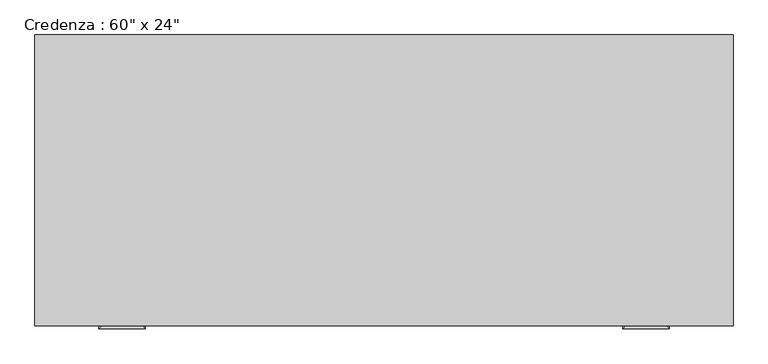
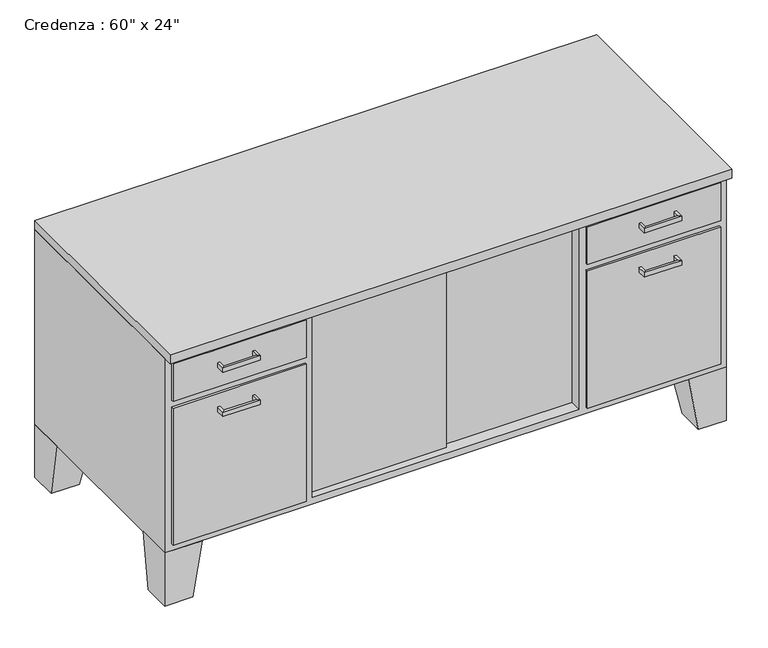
"""IFC4 building model written with IfcOpenShell, lengths in millimetres: furniture geometry."""

from ifc_helpers import new_model, si_unit, frame, origin, place, context, project, spatial, polyline, outline, extrude, faceted_brep, source, transform, mapped, element, save


def furniture_0f0bb7e9(model_context):
    return source(origin(), model_context, "Body", "SolidModel", [
        extrude(outline(polyline([(455.5023176, -267.2714583), (46.8442623, -267.2714583), (46.8442623, -254.5714583), (455.5023176, -254.5714583), (455.5023176, -267.2714583)])), frame((0.0, 0.0, 171.45), z_axis=(0.0, 0.0, 1.0), x_axis=(1.0, 0.0, 0.0)), (0.0, 0.0, 1.0), 520.7),
        extrude(outline(polyline([(73.6254475, -279.9714583), (-302.4057377, -279.9714583), (-302.4057377, -267.2714583), (73.6254475, -267.2714583), (73.6254475, -279.9714583)])), frame((0.0, 0.0, 171.45), z_axis=(0.0, 0.0, 1.0), x_axis=(1.0, 0.0, 0.0)), (0.0, 0.0, 1.0), 520.7),
        faceted_brep([(719.9442623, 309.3803279, 152.4), (719.9442623, 207.7803279, 152.4), (821.5442623, 207.7803279, 152.4), (821.5442623, 309.3803279, 152.4), (745.3442623, 309.3803279, 0.0), (821.5442623, 309.3803279, 0.0), (821.5442623, 233.1803279, 0.0), (745.3442623, 233.1803279, 0.0)], [[[0, 1, 2, 3]], [[4, 5, 6, 7]], [[4, 7, 1, 0]], [[7, 6, 2, 1]], [[6, 5, 3, 2]], [[5, 4, 0, 3]]]),
        extrude(outline(polyline([(802.4942623, -306.5696721), (440.5442623, -306.5696721), (440.5442623, -300.2196721), (802.4942623, -300.2196721), (802.4942623, -306.5696721)])), frame((0.0, 0.0, 584.2), z_axis=(0.0, 0.0, 1.0), x_axis=(1.0, 0.0, 0.0)), (0.0, 0.0, 1.0), 107.95),
        extrude(outline(polyline([(802.4942623, -306.5696721), (440.5442623, -306.5696721), (440.5442623, -300.2196721), (802.4942623, -300.2196721), (802.4942623, -306.5696721)])), frame((0.0, 0.0, 171.45), z_axis=(0.0, 0.0, 1.0), x_axis=(1.0, 0.0, 0.0)), (0.0, 0.0, 1.0), 393.7),
        extrude(outline(polyline([(-321.4557377, -306.5696721), (-683.4057377, -306.5696721), (-683.4057377, -300.2196721), (-321.4557377, -300.2196721), (-321.4557377, -306.5696721)])), frame((0.0, 0.0, 584.2), z_axis=(0.0, 0.0, 1.0), x_axis=(1.0, 0.0, 0.0)), (0.0, 0.0, 1.0), 107.95),
        extrude(outline(polyline([(-321.4557377, -306.5696721), (-683.4057377, -306.5696721), (-683.4057377, -300.2196721), (-321.4557377, -300.2196721), (-321.4557377, -306.5696721)])), frame((0.0, 0.0, 171.45), z_axis=(0.0, 0.0, 1.0), x_axis=(1.0, 0.0, 0.0)), (0.0, 0.0, 1.0), 393.7),
        faceted_brep([(-600.8557377, -300.2196721, 152.4), (-600.8557377, -198.6196721, 152.4), (-702.4557377, -198.6196721, 152.4), (-702.4557377, -300.2196721, 152.4), (-626.2557377, -300.2196721, 0.0), (-702.4557377, -300.2196721, 0.0), (-702.4557377, -224.0196721, 0.0), (-626.2557377, -224.0196721, 0.0)], [[[0, 1, 2, 3]], [[4, 5, 6, 7]], [[4, 7, 1, 0]], [[7, 6, 2, 1]], [[6, 5, 3, 2]], [[5, 4, 0, 3]]]),
        faceted_brep([(-600.8557377, 309.3803279, 152.4), (-702.4557377, 309.3803279, 152.4), (-702.4557377, 207.7803279, 152.4), (-600.8557377, 207.7803279, 152.4), (-626.2557377, 309.3803279, 0.0), (-626.2557377, 233.1803279, 0.0), (-702.4557377, 233.1803279, 0.0), (-702.4557377, 309.3803279, 0.0)], [[[0, 1, 2, 3]], [[4, 5, 6, 7]], [[4, 7, 1, 0]], [[7, 6, 2, 1]], [[6, 5, 3, 2]], [[5, 4, 0, 3]]]),
        faceted_brep([(719.9442623, -300.2196721, 152.4), (821.5442623, -300.2196721, 152.4), (821.5442623, -198.6196721, 152.4), (719.9442623, -198.6196721, 152.4), (745.3442623, -300.2196721, 0.0), (745.3442623, -224.0196721, 0.0), (821.5442623, -224.0196721, 0.0), (821.5442623, -300.2196721, 0.0)], [[[0, 1, 2, 3]], [[4, 5, 6, 7]], [[4, 7, 1, 0]], [[7, 6, 2, 1]], [[6, 5, 3, 2]], [[5, 4, 0, 3]]]),
        faceted_brep([(821.5442623, 309.3803279, 711.2), (-702.4557377, 309.3803279, 711.2), (-702.4557377, -300.2196721, 711.2), (821.5442623, -300.2196721, 711.2), (821.5442623, 309.3803279, 152.4), (821.5442623, -300.2196721, 152.4), (-702.4557377, -300.2196721, 152.4), (-702.4557377, 309.3803279, 152.4), (-302.4057377, -300.2196721, 692.15), (421.4942623, -300.2196721, 692.15), (421.4942623, -300.2196721, 171.45), (-302.4057377, -300.2196721, 171.45), (421.4942623, 290.3303279, 692.15), (-302.4057377, 290.3303279, 692.15), (-302.4057377, 290.3303279, 171.45), (421.4942623, 290.3303279, 171.45)], [[[0, 1, 2, 3]], [[4, 5, 6, 7]], [[1, 0, 4, 7]], [[2, 1, 7, 6]], [[3, 2, 6, 5], [8, 9, 10, 11]], [[0, 3, 5, 4]], [[12, 13, 14, 15]], [[13, 12, 9, 8]], [[14, 13, 8, 11]], [[15, 14, 11, 10]], [[12, 15, 10, 9]]]),
        extrude(outline(polyline([(821.5442623, 309.3803279), (821.5442623, -325.6196721), (-702.4557377, -325.6196721), (-702.4557377, 309.3803279), (821.5442623, 309.3803279)])), frame((0.0, 0.0, 711.2), z_axis=(0.0, 0.0, 1.0), x_axis=(1.0, 0.0, 0.0)), (0.0, 0.0, 1.0), 25.4),
        faceted_brep([(-556.4057377, -306.5696721, 527.05), (-556.4057377, -306.5696721, 514.35), (-562.7557377, -306.5696721, 514.35), (-562.7557377, -306.5696721, 527.05), (-556.4057377, -325.6196721, 527.05), (-556.4057377, -325.6196721, 514.35), (-562.7557377, -331.9696721, 514.35), (-562.7557377, -331.9696721, 527.05), (-467.5057377, -325.6196721, 527.05), (-467.5057377, -325.6196721, 514.35), (-461.1557377, -331.9696721, 514.35), (-461.1557377, -331.9696721, 527.05), (-467.5057377, -306.5696721, 527.05), (-461.1557377, -306.5696721, 527.05), (-461.1557377, -306.5696721, 514.35), (-467.5057377, -306.5696721, 514.35)], [[[0, 1, 2, 3]], [[1, 0, 4, 5]], [[2, 1, 5, 6]], [[3, 2, 6, 7]], [[0, 3, 7, 4]], [[5, 4, 8, 9]], [[6, 5, 9, 10]], [[7, 6, 10, 11]], [[4, 7, 11, 8]], [[12, 13, 14, 15]], [[9, 8, 12, 15]], [[10, 9, 15, 14]], [[11, 10, 14, 13]], [[8, 11, 13, 12]]]),
        faceted_brep([(-556.4057377, -306.5696721, 654.05), (-556.4057377, -306.5696721, 641.35), (-562.7557377, -306.5696721, 641.35), (-562.7557377, -306.5696721, 654.05), (-556.4057377, -325.6196721, 654.05), (-556.4057377, -325.6196721, 641.35), (-562.7557377, -331.9696721, 641.35), (-562.7557377, -331.9696721, 654.05), (-467.5057377, -325.6196721, 654.05), (-467.5057377, -325.6196721, 641.35), (-461.1557377, -331.9696721, 641.35), (-461.1557377, -331.9696721, 654.05), (-467.5057377, -306.5696721, 654.05), (-461.1557377, -306.5696721, 654.05), (-461.1557377, -306.5696721, 641.35), (-467.5057377, -306.5696721, 641.35)], [[[0, 1, 2, 3]], [[1, 0, 4, 5]], [[2, 1, 5, 6]], [[3, 2, 6, 7]], [[0, 3, 7, 4]], [[5, 4, 8, 9]], [[6, 5, 9, 10]], [[7, 6, 10, 11]], [[4, 7, 11, 8]], [[12, 13, 14, 15]], [[9, 8, 12, 15]], [[10, 9, 15, 14]], [[11, 10, 14, 13]], [[8, 11, 13, 12]]]),
        faceted_brep([(586.5942623, -306.5696721, 654.1373112), (586.5942623, -306.5696721, 641.4373112), (580.2442623, -306.5696721, 641.4373112), (580.2442623, -306.5696721, 654.1373112), (586.5942623, -325.6196721, 654.1373112), (586.5942623, -325.6196721, 641.4373112), (580.2442623, -331.9696721, 641.4373112), (580.2442623, -331.9696721, 654.1373112), (675.4942623, -325.6196721, 654.1373112), (675.4942623, -325.6196721, 641.4373112), (681.8442623, -331.9696721, 641.4373112), (681.8442623, -331.9696721, 654.1373112), (675.4942623, -306.5696721, 654.1373112), (681.8442623, -306.5696721, 654.1373112), (681.8442623, -306.5696721, 641.4373112), (675.4942623, -306.5696721, 641.4373112)], [[[0, 1, 2, 3]], [[1, 0, 4, 5]], [[2, 1, 5, 6]], [[3, 2, 6, 7]], [[0, 3, 7, 4]], [[5, 4, 8, 9]], [[6, 5, 9, 10]], [[7, 6, 10, 11]], [[4, 7, 11, 8]], [[12, 13, 14, 15]], [[9, 8, 12, 15]], [[10, 9, 15, 14]], [[11, 10, 14, 13]], [[8, 11, 13, 12]]]),
        faceted_brep([(586.5942623, -306.5696721, 527.05), (586.5942623, -306.5696721, 514.35), (580.2442623, -306.5696721, 514.35), (580.2442623, -306.5696721, 527.05), (586.5942623, -325.6196721, 527.05), (586.5942623, -325.6196721, 514.35), (580.2442623, -331.9696721, 514.35), (580.2442623, -331.9696721, 527.05), (675.4942623, -325.6196721, 527.05), (675.4942623, -325.6196721, 514.35), (681.8442623, -331.9696721, 514.35), (681.8442623, -331.9696721, 527.05), (675.4942623, -306.5696721, 527.05), (681.8442623, -306.5696721, 527.05), (681.8442623, -306.5696721, 514.35), (675.4942623, -306.5696721, 514.35)], [[[0, 1, 2, 3]], [[1, 0, 4, 5]], [[2, 1, 5, 6]], [[3, 2, 6, 7]], [[0, 3, 7, 4]], [[5, 4, 8, 9]], [[6, 5, 9, 10]], [[7, 6, 10, 11]], [[4, 7, 11, 8]], [[12, 13, 14, 15]], [[9, 8, 12, 15]], [[10, 9, 15, 14]], [[11, 10, 14, 13]], [[8, 11, 13, 12]]]),
    ])


if __name__ == "__main__":
    model = new_model("IFC4")
    model_context = context("Model", 3, world=origin())
    ifc_project = project(units=[si_unit("LENGTHUNIT", "METRE", prefix="MILLI")], contexts=[model_context])
    site = spatial("IfcSite", under=ifc_project)
    building = spatial("IfcBuilding", under=site)
    placement = place(None, origin())
    furniture_shape = furniture_0f0bb7e9(model_context)
    element("IfcFurniture", 1, ObjectType="Credenza : 60\" x 24\"", at=placement, inside=building, context=model_context, shape_type="MappedRepresentation", body=[
        mapped(furniture_shape, transform((0.0, 0.0, 0.0), x_axis=(1.0, 0.0, 0.0), y_axis=(0.0, 1.0, 0.0), z_axis=(0.0, 0.0, 1.0))),
    ])
    save(model, "model.ifc")
